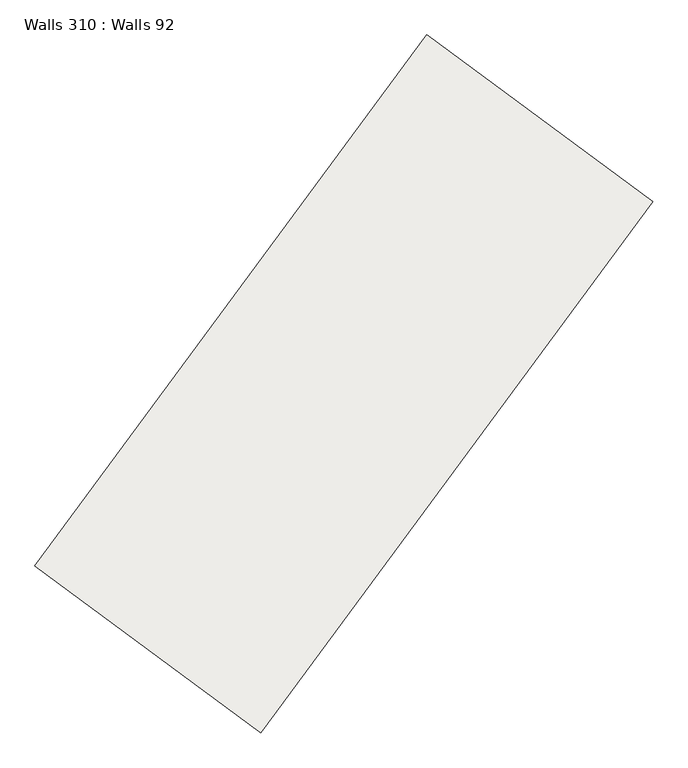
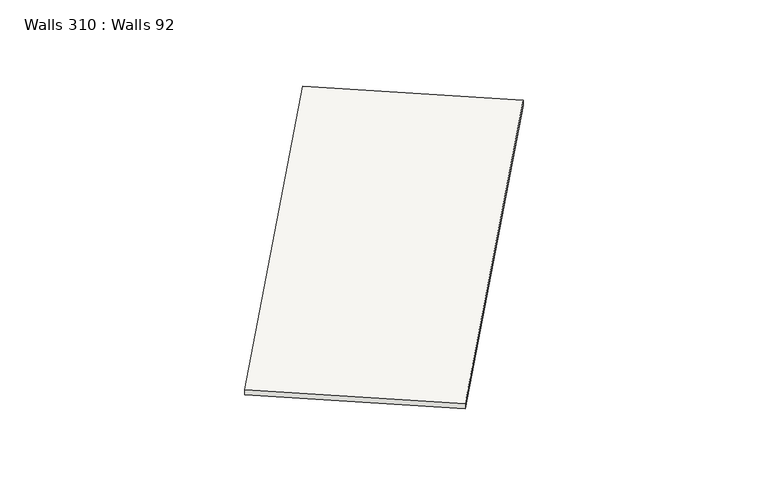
"""IFC4 building model written with IfcOpenShell, lengths in millimetres: slab geometry, Walls 310 : Walls 92."""

from ifc_helpers import new_model, si_unit, frame, origin, place, context, project, spatial, polyline, outline, extrude, source, transform, mapped, element, save


def walls_310_walls_92_be279f6c(model_context):
    return source(origin(), model_context, "Body", "SweptSolid", [
        extrude(outline(polyline([(-50.0, 0.0), (50.0, 0.0), (-80.0, -8700.0000001), (-180.0, -8700.0000001), (-50.0, 0.0)])), frame((81335.1988114, -68293.6900411, 639460.0), z_axis=(-0.8047049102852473, 0.5936750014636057, 0.0), x_axis=(0.0, 0.0, 1.0)), (0.0, 0.0, 1.0), 3699.9805598),
    ])


if __name__ == "__main__":
    model = new_model("IFC4")
    model_context = context("Model", 3, world=origin())
    ifc_project = project(units=[si_unit("LENGTHUNIT", "METRE", prefix="MILLI")], contexts=[model_context])
    site = spatial("IfcSite", under=ifc_project)
    building = spatial("IfcBuilding", under=site)
    placement = place(None, origin())
    walls_310_walls_92_shape = walls_310_walls_92_be279f6c(model_context)
    element("IfcSlab", 1, ObjectType="Walls 310 : Walls 92", at=placement, inside=building, context=model_context, shape_type="MappedRepresentation", body=[
        mapped(walls_310_walls_92_shape, transform((0.0, 0.0, 0.0), x_axis=(1.0, 0.0, 0.0), y_axis=(0.0, 1.0, 0.0), z_axis=(0.0, 0.0, 1.0))),
    ])
    save(model, "model.ifc")
